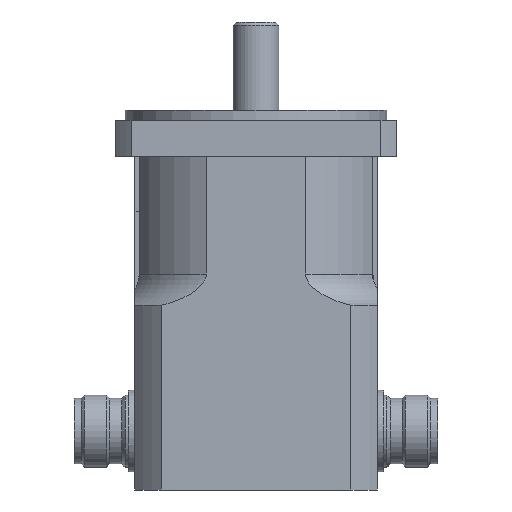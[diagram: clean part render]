
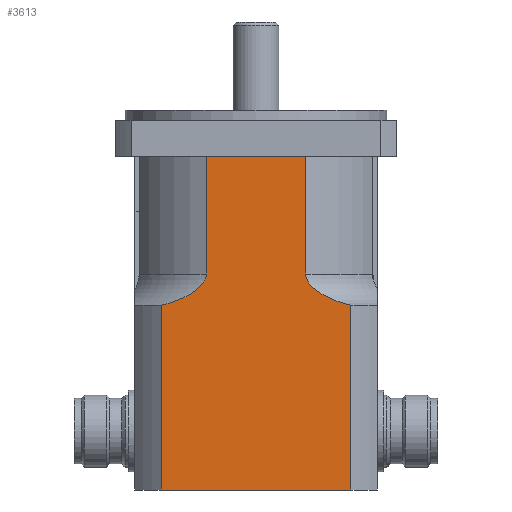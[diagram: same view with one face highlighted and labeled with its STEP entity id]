
A CAD part, front view. The second image highlights one B-rep face of the part: STEP entity #3613.
In plain terms, the highlighted planar face has unit normal (0, -1, 0).
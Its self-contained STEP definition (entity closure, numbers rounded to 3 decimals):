
#54=B_SPLINE_CURVE_WITH_KNOTS('',3,(#4087,#4088,#4089,#4090,#4091,#4092,
#4093,#4094,#4095,#4096,#4097,#4098,#4099,#4100,#4101,#4102,#4103,#4104,
#4105,#4106,#4107,#4108,#4109,#4110,#4111,#4112,#4113,#4114,#4115,#4116,
#4117,#4118,#4119,#4120,#4121,#4122,#4123,#4124,#4125,#4126),.UNSPECIFIED.,
 .F.,.U.,(4,3,3,3,3,3,3,3,3,3,3,3,3,4),(2.204,2.389,
2.471,2.822,3.094,3.161,3.519,
3.586,3.633,3.697,3.742,3.774,
3.861,3.877),.UNSPECIFIED.);
#58=B_SPLINE_CURVE_WITH_KNOTS('',3,(#4217,#4218,#4219,#4220,#4221,#4222,
#4223,#4224,#4225,#4226,#4227,#4228,#4229,#4230,#4231,#4232,#4233,#4234,
#4235,#4236,#4237,#4238,#4239,#4240,#4241,#4242,#4243,#4244,#4245,#4246,
#4247,#4248,#4249,#4250,#4251,#4252,#4253,#4254,#4255,#4256),.UNSPECIFIED.,
 .F.,.U.,(4,3,3,3,3,3,3,3,3,3,3,3,3,4),(3.877,3.963,
4.001,4.037,4.131,4.202,4.539,
4.649,4.717,5.076,5.244,5.333,
5.405,5.55),.UNSPECIFIED.);
#547=VECTOR('',#1316,1.);
#555=VECTOR('',#1343,1.);
#557=VECTOR('',#1362,1.);
#561=VECTOR('',#1370,1.);
#584=VECTOR('',#1407,1.);
#585=VECTOR('',#1408,1.);
#708=LINE('',#3961,#547);
#716=LINE('',#4040,#555);
#718=LINE('',#4298,#557);
#722=LINE('',#4304,#561);
#745=LINE('',#4435,#584);
#746=LINE('',#4436,#585);
#849=PLANE('',#1904);
#1007=VERTEX_POINT('',#3960);
#1008=VERTEX_POINT('',#3962);
#1017=VERTEX_POINT('',#4026);
#1024=VERTEX_POINT('',#4039);
#1026=VERTEX_POINT('',#4044);
#1029=VERTEX_POINT('',#4086);
#1035=VERTEX_POINT('',#4215);
#1037=VERTEX_POINT('',#4257);
#1316=DIRECTION('',(-1.,0.,0.));
#1343=DIRECTION('',(-1.,0.,0.));
#1362=DIRECTION('',(0.,0.,1.));
#1370=DIRECTION('',(0.,0.,1.));
#1406=DIRECTION('',(0.,-1.,0.));
#1407=DIRECTION('',(0.,0.,1.));
#1408=DIRECTION('',(0.,0.,-1.));
#1904=AXIS2_PLACEMENT_3D('',#4434,#1406,$);
#2268=EDGE_CURVE('',#1008,#1007,#708,.T.);
#2285=EDGE_CURVE('',#1024,#1017,#716,.T.);
#2290=EDGE_CURVE('',#1026,#1029,#54,.T.);
#2297=EDGE_CURVE('',#1037,#1035,#58,.T.);
#2302=EDGE_CURVE('',#1037,#1007,#718,.T.);
#2306=EDGE_CURVE('',#1029,#1008,#722,.T.);
#2334=EDGE_CURVE('',#1017,#1035,#745,.T.);
#2335=EDGE_CURVE('',#1026,#1024,#746,.T.);
#2761=ORIENTED_EDGE('',*,*,#2302,.F.);
#2762=ORIENTED_EDGE('',*,*,#2297,.T.);
#2763=ORIENTED_EDGE('',*,*,#2334,.F.);
#2764=ORIENTED_EDGE('',*,*,#2285,.F.);
#2765=ORIENTED_EDGE('',*,*,#2335,.F.);
#2766=ORIENTED_EDGE('',*,*,#2290,.T.);
#2767=ORIENTED_EDGE('',*,*,#2306,.T.);
#2768=ORIENTED_EDGE('',*,*,#2268,.T.);
#3271=EDGE_LOOP('',(#2761,#2762,#2763,#2764,#2765,#2766,#2767,#2768));
#3455=FACE_BOUND('',#3271,.T.);
#3613=ADVANCED_FACE('',(#3455),#849,.T.);
#3960=CARTESIAN_POINT('',(-15.199,-37.,102.));
#3961=CARTESIAN_POINT('',(15.199,-37.,102.));
#3962=CARTESIAN_POINT('',(15.199,-37.,102.));
#4026=CARTESIAN_POINT('',(-28.983,-37.,0.));
#4039=CARTESIAN_POINT('',(28.983,-37.,0.));
#4040=CARTESIAN_POINT('',(28.983,-37.,0.));
#4044=CARTESIAN_POINT('',(28.983,-37.,56.461));
#4086=CARTESIAN_POINT('',(15.199,-37.,66.));
#4087=CARTESIAN_POINT('',(28.983,-37.,56.461));
#4088=CARTESIAN_POINT('',(28.327,-37.,56.588));
#4089=CARTESIAN_POINT('',(27.686,-37.,56.738));
#4090=CARTESIAN_POINT('',(27.081,-37.,56.901));
#4091=CARTESIAN_POINT('',(26.812,-37.,56.973));
#4092=CARTESIAN_POINT('',(26.552,-37.,57.048));
#4093=CARTESIAN_POINT('',(26.284,-37.,57.128));
#4094=CARTESIAN_POINT('',(25.132,-37.,57.475));
#4095=CARTESIAN_POINT('',(23.907,-37.,57.929));
#4096=CARTESIAN_POINT('',(22.743,-37.,58.46));
#4097=CARTESIAN_POINT('',(21.843,-37.,58.871));
#4098=CARTESIAN_POINT('',(20.978,-37.,59.327));
#4099=CARTESIAN_POINT('',(20.202,-37.,59.797));
#4100=CARTESIAN_POINT('',(20.011,-37.,59.913));
#4101=CARTESIAN_POINT('',(19.817,-37.,60.035));
#4102=CARTESIAN_POINT('',(19.621,-37.,60.162));
#4103=CARTESIAN_POINT('',(18.577,-37.,60.843));
#4104=CARTESIAN_POINT('',(17.501,-37.,61.687));
#4105=CARTESIAN_POINT('',(16.685,-37.,62.621));
#4106=CARTESIAN_POINT('',(16.533,-37.,62.795));
#4107=CARTESIAN_POINT('',(16.39,-37.,62.972));
#4108=CARTESIAN_POINT('',(16.258,-37.,63.151));
#4109=CARTESIAN_POINT('',(16.164,-37.,63.279));
#4110=CARTESIAN_POINT('',(16.07,-37.,63.414));
#4111=CARTESIAN_POINT('',(15.979,-37.,63.557));
#4112=CARTESIAN_POINT('',(15.855,-37.,63.752));
#4113=CARTESIAN_POINT('',(15.738,-37.,63.959));
#4114=CARTESIAN_POINT('',(15.638,-37.,64.169));
#4115=CARTESIAN_POINT('',(15.569,-37.,64.313));
#4116=CARTESIAN_POINT('',(15.508,-37.,64.459));
#4117=CARTESIAN_POINT('',(15.456,-37.,64.6));
#4118=CARTESIAN_POINT('',(15.419,-37.,64.702));
#4119=CARTESIAN_POINT('',(15.385,-37.,64.805));
#4120=CARTESIAN_POINT('',(15.354,-37.,64.914));
#4121=CARTESIAN_POINT('',(15.27,-37.,65.208));
#4122=CARTESIAN_POINT('',(15.216,-37.,65.533));
#4123=CARTESIAN_POINT('',(15.202,-37.,65.832));
#4124=CARTESIAN_POINT('',(15.2,-37.,65.889));
#4125=CARTESIAN_POINT('',(15.199,-37.,65.945));
#4126=CARTESIAN_POINT('',(15.199,-37.,66.));
#4215=CARTESIAN_POINT('',(-28.983,-37.,56.461));
#4217=CARTESIAN_POINT('',(-15.199,-37.,66.));
#4218=CARTESIAN_POINT('',(-15.199,-37.,65.712));
#4219=CARTESIAN_POINT('',(-15.236,-37.,65.388));
#4220=CARTESIAN_POINT('',(-15.309,-37.,65.084));
#4221=CARTESIAN_POINT('',(-15.341,-37.,64.952));
#4222=CARTESIAN_POINT('',(-15.378,-37.,64.825));
#4223=CARTESIAN_POINT('',(-15.419,-37.,64.705));
#4224=CARTESIAN_POINT('',(-15.458,-37.,64.59));
#4225=CARTESIAN_POINT('',(-15.501,-37.,64.478));
#4226=CARTESIAN_POINT('',(-15.551,-37.,64.362));
#4227=CARTESIAN_POINT('',(-15.682,-37.,64.055));
#4228=CARTESIAN_POINT('',(-15.856,-37.,63.742));
#4229=CARTESIAN_POINT('',(-16.04,-37.,63.463));
#4230=CARTESIAN_POINT('',(-16.178,-37.,63.254));
#4231=CARTESIAN_POINT('',(-16.316,-37.,63.068));
#4232=CARTESIAN_POINT('',(-16.467,-37.,62.88));
#4233=CARTESIAN_POINT('',(-17.189,-37.,61.987));
#4234=CARTESIAN_POINT('',(-18.164,-37.,61.164));
#4235=CARTESIAN_POINT('',(-19.15,-37.,60.479));
#4236=CARTESIAN_POINT('',(-19.472,-37.,60.255));
#4237=CARTESIAN_POINT('',(-19.796,-37.,60.046));
#4238=CARTESIAN_POINT('',(-20.111,-37.,59.853));
#4239=CARTESIAN_POINT('',(-20.306,-37.,59.733));
#4240=CARTESIAN_POINT('',(-20.502,-37.,59.618));
#4241=CARTESIAN_POINT('',(-20.705,-37.,59.502));
#4242=CARTESIAN_POINT('',(-21.774,-37.,58.891));
#4243=CARTESIAN_POINT('',(-22.981,-37.,58.32));
#4244=CARTESIAN_POINT('',(-24.196,-37.,57.847));
#4245=CARTESIAN_POINT('',(-24.765,-37.,57.626));
#4246=CARTESIAN_POINT('',(-25.336,-37.,57.426));
#4247=CARTESIAN_POINT('',(-25.893,-37.,57.249));
#4248=CARTESIAN_POINT('',(-26.187,-37.,57.156));
#4249=CARTESIAN_POINT('',(-26.477,-37.,57.069));
#4250=CARTESIAN_POINT('',(-26.762,-37.,56.989));
#4251=CARTESIAN_POINT('',(-26.993,-37.,56.924));
#4252=CARTESIAN_POINT('',(-27.23,-37.,56.86));
#4253=CARTESIAN_POINT('',(-27.471,-37.,56.799));
#4254=CARTESIAN_POINT('',(-27.959,-37.,56.675));
#4255=CARTESIAN_POINT('',(-28.466,-37.,56.561));
#4256=CARTESIAN_POINT('',(-28.983,-37.,56.461));
#4257=CARTESIAN_POINT('',(-15.199,-37.,66.));
#4298=CARTESIAN_POINT('',(-15.199,-37.,85.));
#4304=CARTESIAN_POINT('',(15.199,-37.,85.));
#4434=CARTESIAN_POINT('',(37.,-37.,0.));
#4435=CARTESIAN_POINT('',(-28.983,-37.,0.));
#4436=CARTESIAN_POINT('',(28.983,-37.,56.461));
